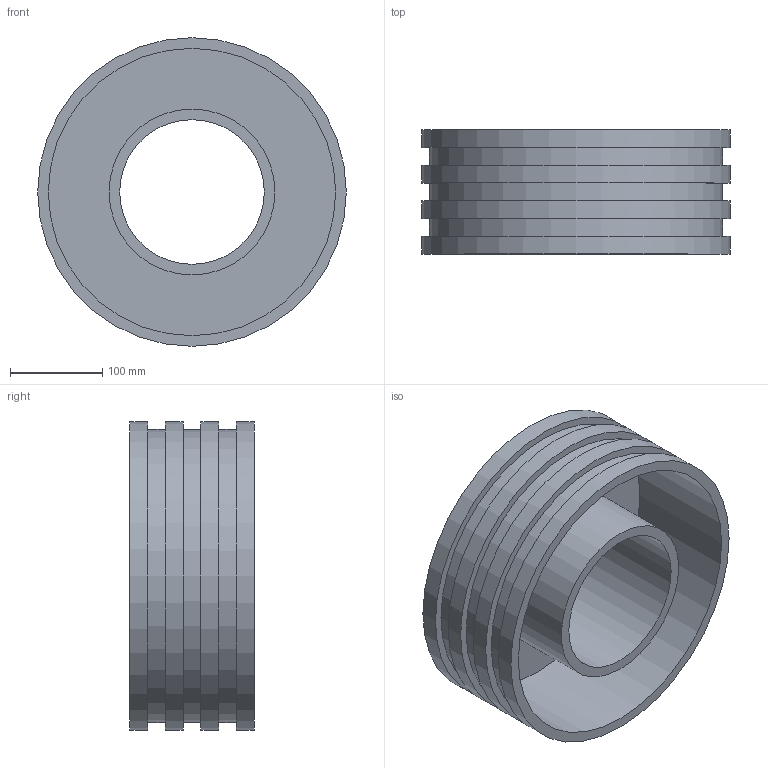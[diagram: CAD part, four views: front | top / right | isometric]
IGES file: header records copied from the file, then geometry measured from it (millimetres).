
Global section: file name: 37020180.ipt; native system: Autodesk Inventor 2015; preprocessor: unknown; author: Кирилл,,11,0; organization: 20170830.190241; date: 20171106.093314; units: millimetre
Bounding box: 335 x 135 x 335 mm (x, y, z)
Volume: 2394283.5 mm3; surface area: 588506.7 mm2
Topology: 1 solids, 1 shells, 20 faces, 34 edges, 24 vertices
Faces by surface type: plane 10, cylinder 8, revolution 2
Full cylindrical faces by diameter (mm): 180 x1, 318.25 x3, 335 x4
